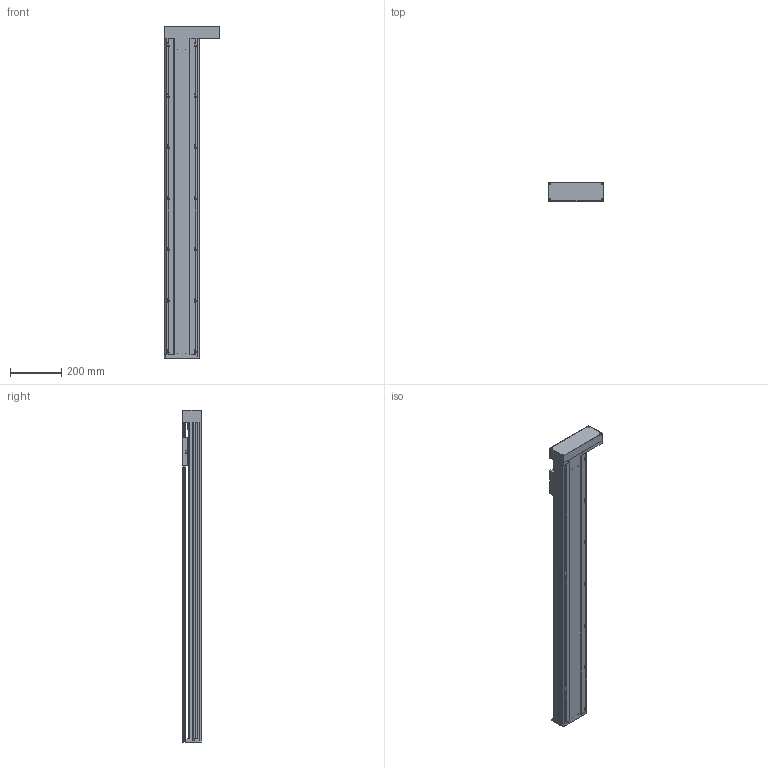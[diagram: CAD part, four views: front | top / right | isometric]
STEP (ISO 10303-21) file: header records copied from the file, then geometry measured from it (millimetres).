
FILE_DESCRIPTION(/* description */ (''),/* implementation_level */ '2;1');
FILE_NAME(/* name */ '',/* time_stamp */ '2016-08-29T08:12:01+08:00',/* author */ (''),/* organization */ (''),/* preprocessor_version */ 'ST-DEVELOPER v15',/* originating_system */ 'SIEMENS PLM Software NX 8.5',/* authorisation */ '');
FILE_SCHEMA (('AUTOMOTIVE_DESIGN { 1 0 10303 214 3 1 1 1 }'));
Length unit declared in the file: millimetre
Products named in the file (3): 100-02; 100-01; TKA136-1050A1FR
Assembly tree (2 placements, depth 2):
  TKA136-1050A1FR
    100-01
    100-02
Bounding box: 216 x 75 x 1300 mm (x, y, z)
Volume: 3926276.1 mm3; surface area: 1530605 mm2
Topology: 2 solids, 12 shells, 913 faces, 2587 edges, 1680 vertices
Faces by surface type: cylinder 441, plane 419, cone 53
Full cylindrical faces by diameter (mm): 2.5 x4, 3 x2, 3.3 x15, 4 x4, 4.2 x14, 4.5 x26, 5 x18, 5.5 x26, 6.6 x18, 8 x20, 10 x9, 10.5 x14, 11 x4, 11.6 x1, 12 x9, 15 x3, 16 x5, 17 x1, 24 x5, 26 x1, 28 x1, 46 x2, 50 x1
Entity records: 30871 total; most frequent: CARTESIAN_POINT 8286, DIRECTION 4667, ORIENTED_EDGE 4410, EDGE_CURVE 2205, AXIS2_PLACEMENT_3D 1781, VERTEX_POINT 1579, EDGE_LOOP 1349, LINE 1105
